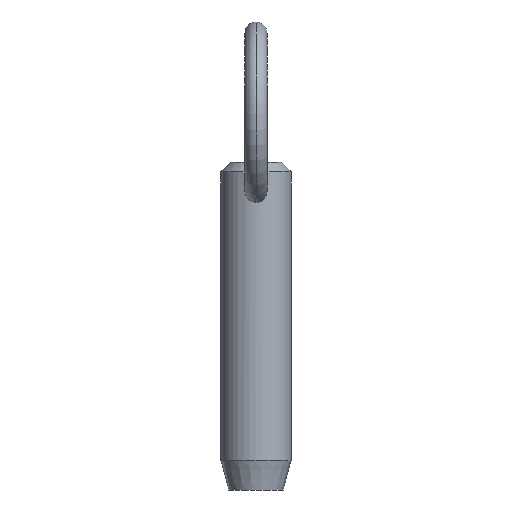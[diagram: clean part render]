
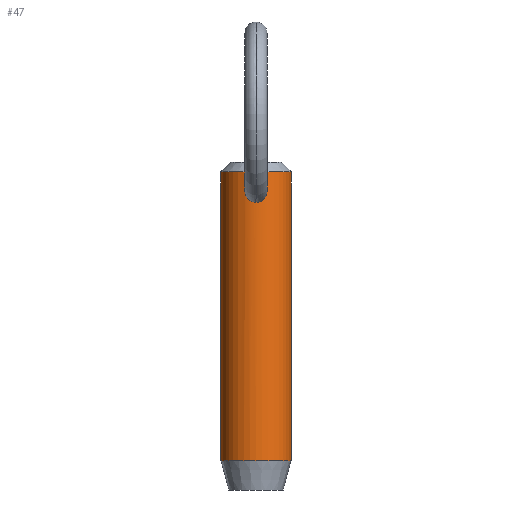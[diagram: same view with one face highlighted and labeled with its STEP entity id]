
A CAD part, front view. The second image highlights one B-rep face of the part: STEP entity #47.
In plain terms, the highlighted cylindrical face has radius 4.76 mm (diameter 9.52 mm), a partial arc.
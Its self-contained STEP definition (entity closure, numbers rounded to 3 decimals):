
#13 = CARTESIAN_POINT ( 'NONE',  ( 0.104, -4.76, 29.648 ) ) ;
#18 = CARTESIAN_POINT ( 'NONE',  ( 1.19, -4.611, 28.924 ) ) ;
#22 = CARTESIAN_POINT ( 'NONE',  ( 1.45, -4.534, 27.428 ) ) ;
#25 = EDGE_CURVE ( 'NONE', #510, #258, #201, .T. ) ;
#28 = VECTOR ( 'NONE', #495, 1000. ) ;
#40 = CARTESIAN_POINT ( 'NONE',  ( -0.793, -4.694, 26.539 ) ) ;
#42 = VERTEX_POINT ( 'NONE', #458 ) ;
#47 = ADVANCED_FACE ( 'NONE', ( #454, #101 ), #233, .T. ) ;
#57 = DIRECTION ( 'NONE',  ( 1., 0., 0. ) ) ;
#58 = DIRECTION ( 'NONE',  ( 0., 0., 1. ) ) ;
#59 = CIRCLE ( 'NONE', #380, 4.76 ) ;
#63 = CARTESIAN_POINT ( 'NONE',  ( 4.76, 0., 25.4 ) ) ;
#64 = CARTESIAN_POINT ( 'NONE',  ( 4.76, 0., 30.45 ) ) ;
#67 = CARTESIAN_POINT ( 'NONE',  ( 0., 0., 25.4 ) ) ;
#70 = CARTESIAN_POINT ( 'NONE',  ( 0.97, -4.662, 26.65 ) ) ;
#71 = EDGE_CURVE ( 'NONE', #175, #168, #402, .T. ) ;
#73 = CARTESIAN_POINT ( 'NONE',  ( 1.499, -4.518, 27.737 ) ) ;
#84 = CARTESIAN_POINT ( 'NONE',  ( -1.19, -4.611, 28.924 ) ) ;
#89 = CARTESIAN_POINT ( 'NONE',  ( -0.932, -4.67, 29.245 ) ) ;
#96 = EDGE_CURVE ( 'NONE', #463, #42, #328, .T. ) ;
#101 = FACE_BOUND ( 'NONE', #274, .T. ) ;
#103 = CARTESIAN_POINT ( 'NONE',  ( 1.503, -4.517, 27.84 ) ) ;
#107 = CARTESIAN_POINT ( 'NONE',  ( 0.512, -4.733, 26.408 ) ) ;
#110 = CARTESIAN_POINT ( 'NONE',  ( 0.105, -4.76, 26.326 ) ) ;
#116 = ORIENTED_EDGE ( 'NONE', *, *, #260, .T. ) ;
#124 = CARTESIAN_POINT ( 'NONE',  ( -1.508, -4.515, 27.737 ) ) ;
#125 = CARTESIAN_POINT ( 'NONE',  ( -1.247, -4.596, 26.952 ) ) ;
#127 = CARTESIAN_POINT ( 'NONE',  ( -0.409, -4.743, 29.578 ) ) ;
#140 = CARTESIAN_POINT ( 'NONE',  ( 0.409, -4.743, 29.578 ) ) ;
#141 = CARTESIAN_POINT ( 'NONE',  ( 0., -4.76, 29.648 ) ) ;
#156 = CARTESIAN_POINT ( 'NONE',  ( -0.21, -4.76, 26.326 ) ) ;
#158 = ORIENTED_EDGE ( 'NONE', *, *, #364, .T. ) ;
#164 = ORIENTED_EDGE ( 'NONE', *, *, #96, .F. ) ;
#168 = VERTEX_POINT ( 'NONE', #230 ) ;
#172 = CARTESIAN_POINT ( 'NONE',  ( -4.76, 0., 25.4 ) ) ;
#173 = AXIS2_PLACEMENT_3D ( 'NONE', #213, #297, #57 ) ;
#175 = VERTEX_POINT ( 'NONE', #270 ) ;
#177 = CARTESIAN_POINT ( 'NONE',  ( 1.473, -4.526, 27.531 ) ) ;
#180 = CARTESIAN_POINT ( 'NONE',  ( 0.925, -4.67, 29.239 ) ) ;
#201 = LINE ( 'NONE', #172, #28 ) ;
#203 = CARTESIAN_POINT ( 'NONE',  ( -0.777, -4.7, 29.385 ) ) ;
#213 = CARTESIAN_POINT ( 'NONE',  ( 0., 0., 30.45 ) ) ;
#215 = VECTOR ( 'NONE', #502, 1000. ) ;
#216 = CARTESIAN_POINT ( 'NONE',  ( 1.404, -4.548, 28.453 ) ) ;
#222 = CARTESIAN_POINT ( 'NONE',  ( 1.344, -4.567, 27.139 ) ) ;
#226 = CARTESIAN_POINT ( 'NONE',  ( 0., -4.76, 26.326 ) ) ;
#228 = CARTESIAN_POINT ( 'NONE',  ( -4.76, 0., 30.45 ) ) ;
#230 = CARTESIAN_POINT ( 'NONE',  ( 0., -4.76, 26.326 ) ) ;
#233 = CYLINDRICAL_SURFACE ( 'NONE', #486, 4.76 ) ;
#235 = EDGE_LOOP ( 'NONE', ( #164, #516, #439, #158 ) ) ;
#243 = CARTESIAN_POINT ( 'NONE',  ( -0.504, -4.734, 29.538 ) ) ;
#244 = CARTESIAN_POINT ( 'NONE',  ( -1.487, -4.522, 28.153 ) ) ;
#249 = B_SPLINE_CURVE_WITH_KNOTS ( 'NONE', 3,
 ( #440, #156, #396, #522, #40, #438, #401, #125, #521, #279, #124, #244, #478, #524, #84, #89, #203, #243, #127, #403, #289, #284 ),
 .UNSPECIFIED., .F., .F.,
 ( 4, 2, 2, 2, 2, 2, 2, 2, 2, 2, 4 ),
 ( 0.009, 0.01, 0.01, 0.011, 0.011, 0.012, 0.012, 0.013, 0.014, 0.014, 0.014 ),
 .UNSPECIFIED. ) ;
#258 = VERTEX_POINT ( 'NONE', #479 ) ;
#260 = EDGE_CURVE ( 'NONE', #168, #175, #249, .T. ) ;
#262 = CARTESIAN_POINT ( 'NONE',  ( 1.178, -4.613, 26.876 ) ) ;
#264 = CARTESIAN_POINT ( 'NONE',  ( 0.77, -4.698, 29.375 ) ) ;
#270 = CARTESIAN_POINT ( 'NONE',  ( 0., -4.76, 29.648 ) ) ;
#274 = EDGE_LOOP ( 'NONE', ( #491, #116 ) ) ;
#279 = CARTESIAN_POINT ( 'NONE',  ( -1.483, -4.524, 27.526 ) ) ;
#284 = CARTESIAN_POINT ( 'NONE',  ( 0., -4.76, 29.648 ) ) ;
#289 = CARTESIAN_POINT ( 'NONE',  ( -0.103, -4.76, 29.648 ) ) ;
#297 = DIRECTION ( 'NONE',  ( 0., 0., -1. ) ) ;
#298 = CARTESIAN_POINT ( 'NONE',  ( 1.492, -4.52, 28.048 ) ) ;
#303 = CARTESIAN_POINT ( 'NONE',  ( 0.411, -4.743, 26.377 ) ) ;
#306 = CARTESIAN_POINT ( 'NONE',  ( 1.434, -4.539, 28.354 ) ) ;
#308 = CARTESIAN_POINT ( 'NONE',  ( 0.997, -4.655, 29.164 ) ) ;
#328 = LINE ( 'NONE', #63, #215 ) ;
#335 = CARTESIAN_POINT ( 'NONE',  ( 0., 0., -8.7 ) ) ;
#341 = CARTESIAN_POINT ( 'NONE',  ( 0.209, -4.756, 29.634 ) ) ;
#345 = CARTESIAN_POINT ( 'NONE',  ( 1.293, -4.582, 28.742 ) ) ;
#364 = EDGE_CURVE ( 'NONE', #258, #42, #59, .T. ) ;
#373 = DIRECTION ( 'NONE',  ( -1., 0., 0. ) ) ;
#374 = EDGE_CURVE ( 'NONE', #463, #510, #411, .T. ) ;
#375 = CARTESIAN_POINT ( 'NONE',  ( 0.797, -4.697, 26.529 ) ) ;
#379 = CARTESIAN_POINT ( 'NONE',  ( 0.687, -4.711, 29.435 ) ) ;
#380 = AXIS2_PLACEMENT_3D ( 'NONE', #335, #58, #373 ) ;
#396 = CARTESIAN_POINT ( 'NONE',  ( -0.416, -4.746, 26.367 ) ) ;
#401 = CARTESIAN_POINT ( 'NONE',  ( -1.039, -4.646, 26.726 ) ) ;
#402 = B_SPLINE_CURVE_WITH_KNOTS ( 'NONE', 3,
 ( #141, #13, #341, #140, #421, #379, #264, #180, #308, #18, #345, #216, #306, #425, #298, #103, #73, #177, #22, #460, #222, #497, #262, #70, #375, #107, #303, #464, #110, #226 ),
 .UNSPECIFIED., .F., .F.,
 ( 4, 2, 2, 2, 2, 2, 2, 2, 2, 2, 2, 2, 2, 2, 4 ),
 ( 0.004, 0.005, 0.005, 0.005, 0.006, 0.006, 0.007, 0.007, 0.007, 0.007, 0.008, 0.008, 0.009, 0.009, 0.009 ),
 .UNSPECIFIED. ) ;
#403 = CARTESIAN_POINT ( 'NONE',  ( -0.208, -4.757, 29.634 ) ) ;
#411 = CIRCLE ( 'NONE', #173, 4.76 ) ;
#421 = CARTESIAN_POINT ( 'NONE',  ( 0.506, -4.734, 29.537 ) ) ;
#422 = DIRECTION ( 'NONE',  ( -1., 0., 0. ) ) ;
#425 = CARTESIAN_POINT ( 'NONE',  ( 1.478, -4.525, 28.152 ) ) ;
#438 = CARTESIAN_POINT ( 'NONE',  ( -0.961, -4.663, 26.657 ) ) ;
#439 = ORIENTED_EDGE ( 'NONE', *, *, #25, .T. ) ;
#440 = CARTESIAN_POINT ( 'NONE',  ( 0., -4.76, 26.326 ) ) ;
#454 = FACE_OUTER_BOUND ( 'NONE', #235, .T. ) ;
#458 = CARTESIAN_POINT ( 'NONE',  ( 4.76, 0., -8.7 ) ) ;
#460 = CARTESIAN_POINT ( 'NONE',  ( 1.385, -4.554, 27.232 ) ) ;
#463 = VERTEX_POINT ( 'NONE', #64 ) ;
#464 = CARTESIAN_POINT ( 'NONE',  ( 0.208, -4.757, 26.336 ) ) ;
#478 = CARTESIAN_POINT ( 'NONE',  ( -1.441, -4.537, 28.357 ) ) ;
#479 = CARTESIAN_POINT ( 'NONE',  ( -4.76, 0., -8.7 ) ) ;
#486 = AXIS2_PLACEMENT_3D ( 'NONE', #67, #500, #422 ) ;
#491 = ORIENTED_EDGE ( 'NONE', *, *, #71, .T. ) ;
#495 = DIRECTION ( 'NONE',  ( 0., 0., -1. ) ) ;
#497 = CARTESIAN_POINT ( 'NONE',  ( 1.24, -4.596, 26.96 ) ) ;
#500 = DIRECTION ( 'NONE',  ( 0., 0., -1. ) ) ;
#502 = DIRECTION ( 'NONE',  ( 0., 0., -1. ) ) ;
#510 = VERTEX_POINT ( 'NONE', #228 ) ;
#516 = ORIENTED_EDGE ( 'NONE', *, *, #374, .T. ) ;
#521 = CARTESIAN_POINT ( 'NONE',  ( -1.353, -4.564, 27.135 ) ) ;
#522 = CARTESIAN_POINT ( 'NONE',  ( -0.703, -4.709, 26.489 ) ) ;
#524 = CARTESIAN_POINT ( 'NONE',  ( -1.292, -4.582, 28.745 ) ) ;
